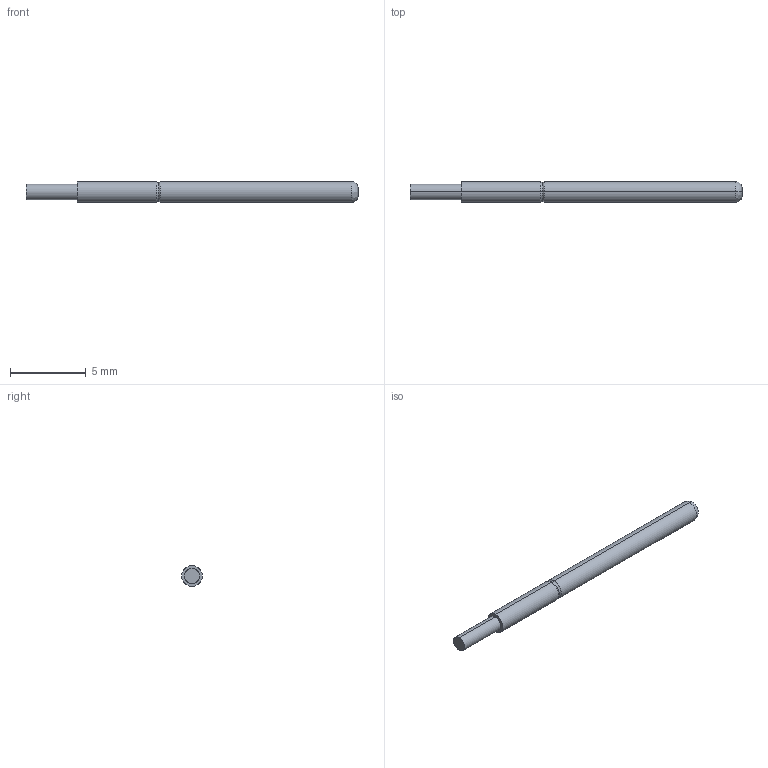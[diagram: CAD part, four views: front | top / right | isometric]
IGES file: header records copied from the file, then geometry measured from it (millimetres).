
Start section: SolidWorks IGES file using analytic representation for surfaces
Global section: file name: Z:\probe solid model mockups\Solidworks models\IGES Files\EPA-2\EPA-2C40 RECD.IGS; native system: SolidWorks 2006 by SolidWorks Corporation; preprocessor: SolidWorks 2006 by SolidWorks Corporation; author: tsakatani; date: 071220.161609; units: inch
Bounding box: 21.92 x 1.37 x 1.37 mm (x, y, z)
Surface area: 92.9 mm2 (no closed solid volume)
Topology: 0 solids, 0 shells, 15 faces, 112 edges, 112 vertices
Faces by surface type: bspline 9, revolution 6
